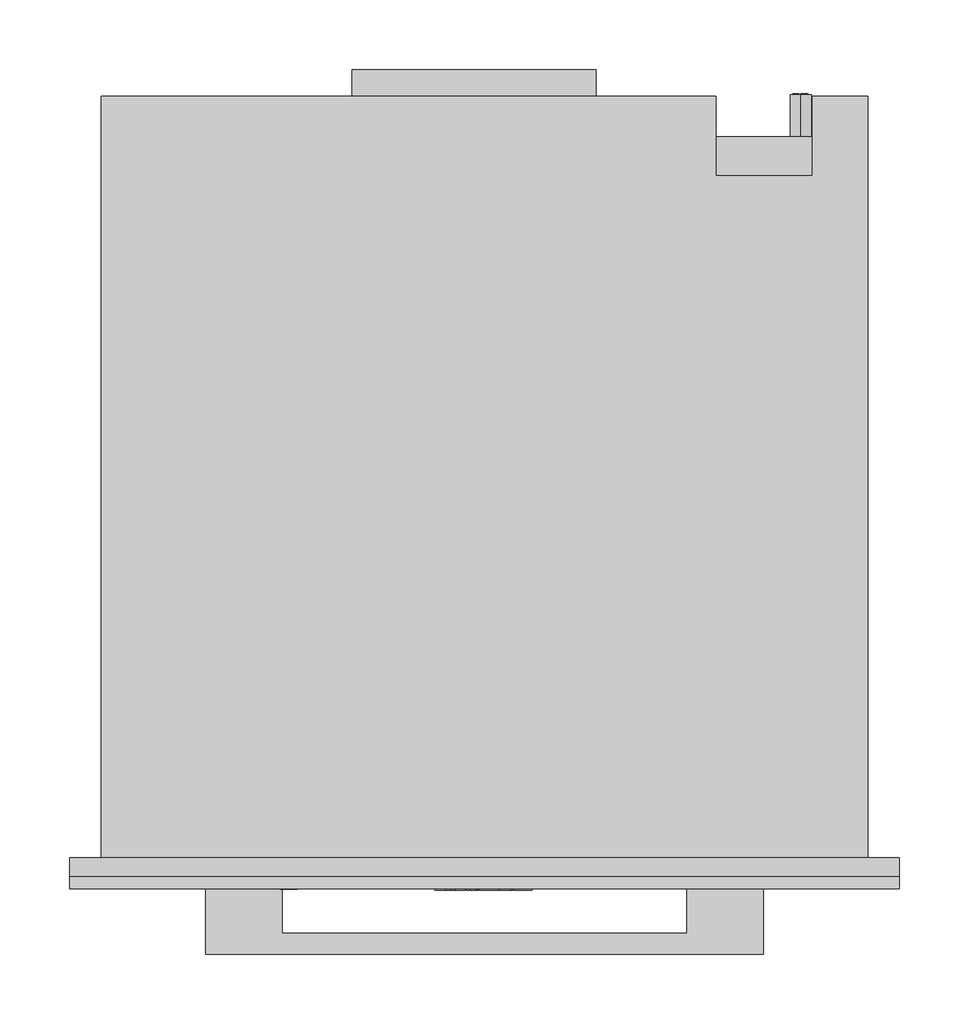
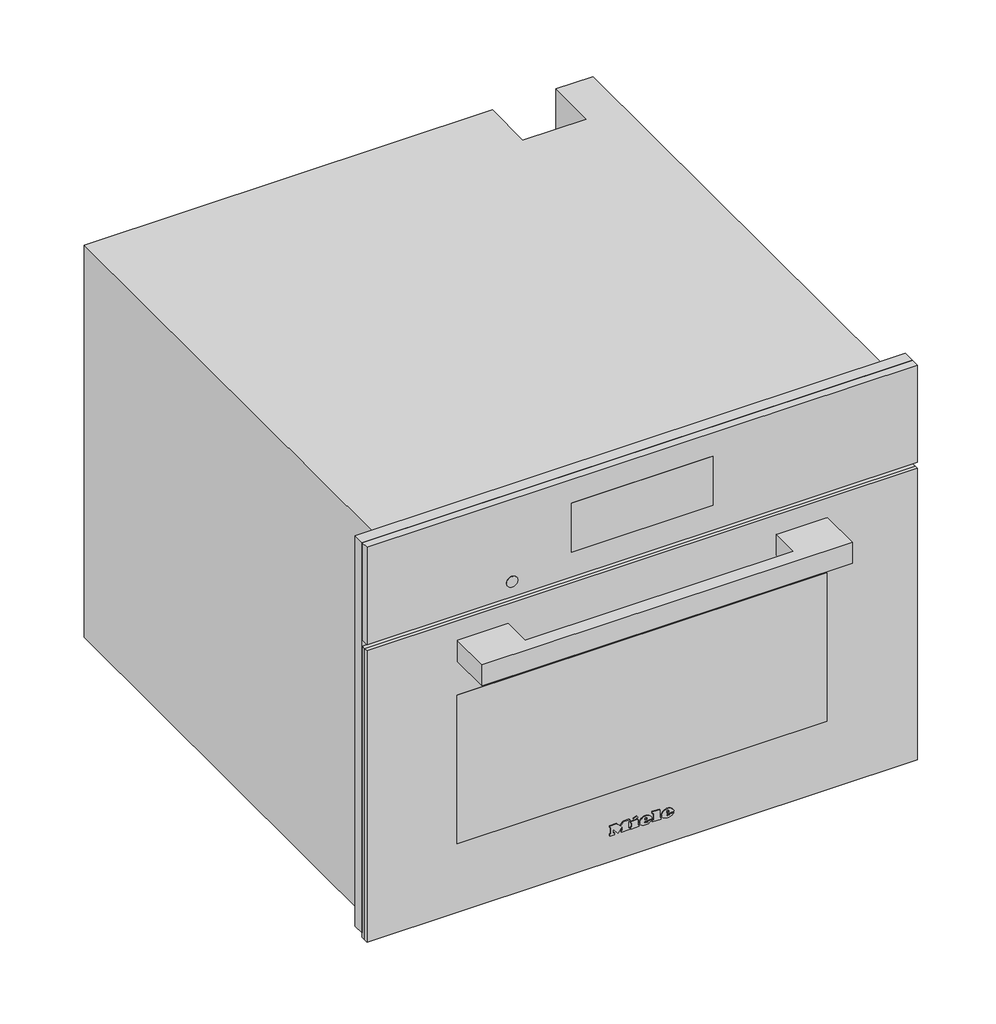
# Not in any storey: 1 proxy.
"""IFC4 building model written with IfcOpenShell, lengths in millimetres."""

from ifc_helpers import new_model, si_unit, origin, place, context, project, spatial, transform, mapped, element, save
from components import specialty_equipment_8b00cf28

model = new_model("IFC4")

# Units and contexts
model_context = context("Model", 3, world=origin())
ifc_project = project(units=[si_unit("LENGTHUNIT", "METRE", prefix="MILLI")], contexts=[model_context])

# Site, building
site = spatial("IfcSite", under=ifc_project)
building = spatial("IfcBuilding", under=site)

# Proxy
placement = place(None, origin())
specialty_equipment_shape = specialty_equipment_8b00cf28(model_context)
element("IfcBuildingElementProxy", 1, Name="11876610_USA_DGC7840_OBSW : 23784022_USA_11876610_DGC7840_OBSW", ObjectType="11876610_USA_DGC7840_OBSW : 23784022_USA_11876610_DGC7840_OBSW", at=placement, inside=building, context=model_context, shape_type="MappedRepresentation", body=[
    mapped(specialty_equipment_shape, transform((0.0, 0.0, 0.0), x_axis=(1.0, 0.0, 0.0), y_axis=(0.0, 1.0, 0.0), z_axis=(0.0, 0.0, 1.0))),
])

save(model, "model.ifc")
